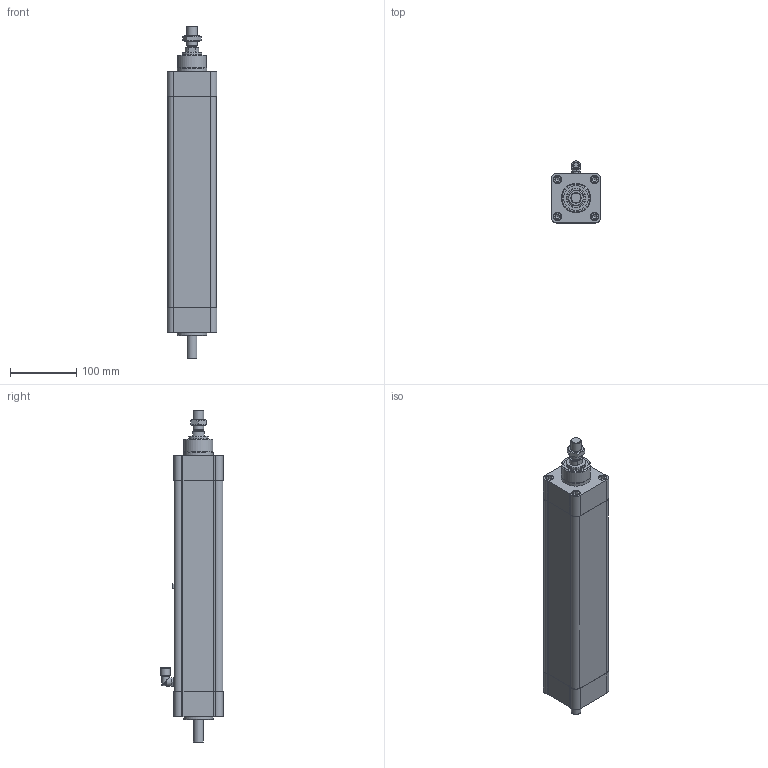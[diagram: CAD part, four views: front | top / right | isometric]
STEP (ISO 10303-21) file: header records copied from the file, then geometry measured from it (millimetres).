
FILE_DESCRIPTION(/* description */ ('STEP AP214'),/* implementation_level */ '2;1');
FILE_NAME(/* name */ 'PNCE 63 BS 2505 225 FI(0)',/* time_stamp */ '2026-06-09T15:07:31+02:00',/* author */ ('License CC BY-ND 4.0'),/* organization */ ('CADENAS'),/* preprocessor_version */ 'ST-DEVELOPER v20',/* originating_system */ 'PARTsolutions',/* authorisation */ ' ');
FILE_SCHEMA (('AUTOMOTIVE_DESIGN {1 0 10303 214 3 1 1}'));
Length unit declared in the file: millimetre
Products named in the file (6): PNCE 63 BS 2505 225 FI(0); PNCE 63_drive cap; PNCE 63 225 FI(0)_cylinder profil; PNCE 63_front cap; PNCE 63 225 FI 0_piston rod; PNCE 63_nut
Assembly tree (5 placements, depth 2):
  PNCE 63 BS 2505 225 FI(0)
    PNCE 63_drive cap
    PNCE 63 225 FI(0)_cylinder profil
    PNCE 63_front cap
    PNCE 63 225 FI 0_piston rod
    PNCE 63_nut
Bounding box: 74.97 x 94.5 x 503 mm (x, y, z)
Volume: 1714301.5 mm3; surface area: 314593.6 mm2
Topology: 5 solids, 5 shells, 282 faces, 644 edges, 424 vertices
Faces by surface type: plane 144, cylinder 102, cone 33, torus 3
Full cylindrical faces by diameter (mm): 6.647 x8, 6.7 x4, 8 x9, 8.7 x4, 10 x1, 11 x1, 12 x8, 12.5 x2, 13 x8, 14 x2, 14.2 x1, 14.376 x1, 15 x1, 16 x1, 29.8 x1, 30 x2, 34 x1, 37 x1, 44 x1, 45 x2, 57 x2, 58 x2
Entity records: 9161 total; most frequent: CARTESIAN_POINT 1362, DIRECTION 1284, ORIENTED_EDGE 1028, EDGE_CURVE 514, AXIS2_PLACEMENT_3D 514, FACE_BOUND 452, EDGE_LOOP 443, VERTEX_POINT 398
